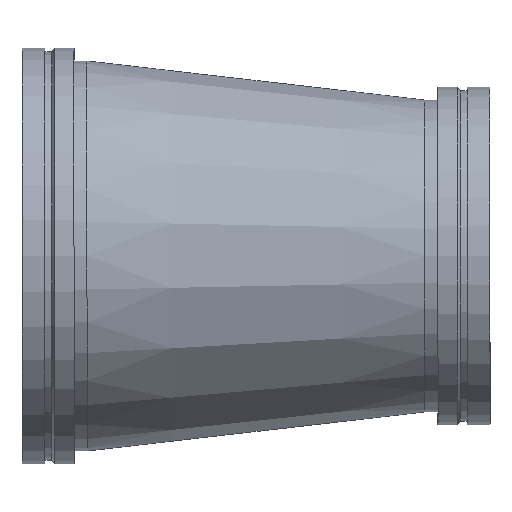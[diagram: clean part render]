
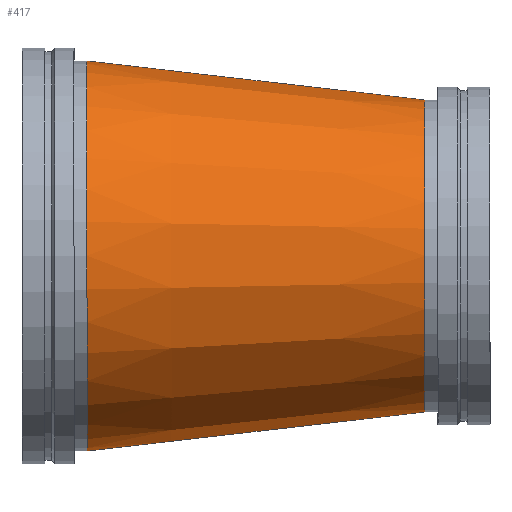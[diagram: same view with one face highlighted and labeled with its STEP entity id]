
A CAD part, top view. The second image highlights one B-rep face of the part: STEP entity #417.
In plain terms, the highlighted conical face has half-angle 6.582 degrees and reference radius 342.9 mm.
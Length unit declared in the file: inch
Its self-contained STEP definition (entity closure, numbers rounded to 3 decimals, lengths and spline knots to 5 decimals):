
#46=CONICAL_SURFACE('',#475,13.5,0.115);
#54=LINE('',#739,#68);
#68=VECTOR('',#587,13.5);
#101=FACE_OUTER_BOUND('',#124,.T.);
#124=EDGE_LOOP('',(#315,#316,#317,#318,#319,#320));
#155=CIRCLE('',#473,15.);
#156=CIRCLE('',#474,15.);
#157=CIRCLE('',#476,12.);
#158=CIRCLE('',#477,12.);
#195=VERTEX_POINT('',#729);
#196=VERTEX_POINT('',#730);
#197=VERTEX_POINT('',#735);
#198=VERTEX_POINT('',#736);
#239=EDGE_CURVE('',#195,#196,#155,.T.);
#240=EDGE_CURVE('',#196,#195,#156,.T.);
#242=EDGE_CURVE('',#197,#198,#157,.T.);
#243=EDGE_CURVE('',#198,#197,#158,.T.);
#244=EDGE_CURVE('',#198,#196,#54,.T.);
#315=ORIENTED_EDGE('',*,*,#242,.F.);
#316=ORIENTED_EDGE('',*,*,#243,.F.);
#317=ORIENTED_EDGE('',*,*,#244,.T.);
#318=ORIENTED_EDGE('',*,*,#240,.T.);
#319=ORIENTED_EDGE('',*,*,#239,.T.);
#320=ORIENTED_EDGE('',*,*,#244,.F.);
#417=ADVANCED_FACE('',(#101),#46,.T.);
#473=AXIS2_PLACEMENT_3D('',#731,#576,#577);
#474=AXIS2_PLACEMENT_3D('',#732,#578,#579);
#475=AXIS2_PLACEMENT_3D('',#734,#581,#582);
#476=AXIS2_PLACEMENT_3D('',#737,#583,#584);
#477=AXIS2_PLACEMENT_3D('',#738,#585,#586);
#576=DIRECTION('center_axis',(1.,0.,0.));
#577=DIRECTION('ref_axis',(0.,0.,-1.));
#578=DIRECTION('center_axis',(1.,0.,0.));
#579=DIRECTION('ref_axis',(0.,0.,-1.));
#581=DIRECTION('center_axis',(-1.,0.,0.));
#582=DIRECTION('ref_axis',(0.,1.,0.));
#583=DIRECTION('center_axis',(1.,0.,0.));
#584=DIRECTION('ref_axis',(0.,0.,-1.));
#585=DIRECTION('center_axis',(1.,0.,0.));
#586=DIRECTION('ref_axis',(0.,0.,-1.));
#587=DIRECTION('',(-0.993,-0.115,0.));
#729=CARTESIAN_POINT('',(5.,15.,0.));
#730=CARTESIAN_POINT('',(5.,-15.,0.));
#731=CARTESIAN_POINT('Origin',(5.,0.,0.));
#732=CARTESIAN_POINT('Origin',(5.,0.,0.));
#734=CARTESIAN_POINT('Origin',(18.,0.,0.));
#735=CARTESIAN_POINT('',(31.,12.,0.));
#736=CARTESIAN_POINT('',(31.,-12.,0.));
#737=CARTESIAN_POINT('Origin',(31.,0.,0.));
#738=CARTESIAN_POINT('Origin',(31.,0.,0.));
#739=CARTESIAN_POINT('',(18.,-13.5,0.));
